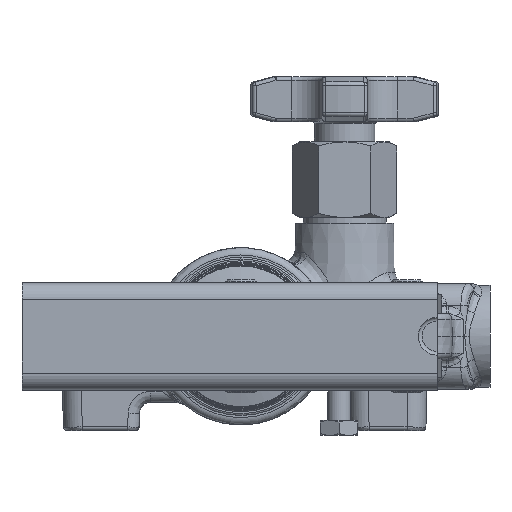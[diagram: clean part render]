
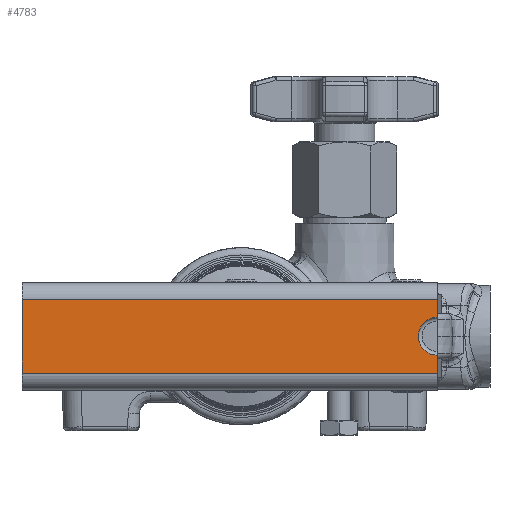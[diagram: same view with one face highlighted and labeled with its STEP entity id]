
A CAD part, left-side view. The second image highlights one B-rep face of the part: STEP entity #4783.
In plain terms, the highlighted planar face has unit normal (-1, 0, 0).
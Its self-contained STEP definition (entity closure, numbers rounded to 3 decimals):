
#4783 = ADVANCED_FACE( 'NONE', ( #10314 ), #10315, .T. );
#10314 = FACE_OUTER_BOUND( '', #29376, .T. );
#10315 = PLANE( '', #29377 );
#29376 = EDGE_LOOP( '', ( #46505, #46506, #46507, #46508, #46509, #46510 ) );
#29377 = AXIS2_PLACEMENT_3D( '', #46511, #46512, #46513 );
#46505 = ORIENTED_EDGE( '', *, *, #53164, .F. );
#46506 = ORIENTED_EDGE( '', *, *, #55610, .T. );
#46507 = ORIENTED_EDGE( '', *, *, #51175, .T. );
#46508 = ORIENTED_EDGE( '', *, *, #51319, .F. );
#46509 = ORIENTED_EDGE( '', *, *, #55611, .F. );
#46510 = ORIENTED_EDGE( '', *, *, #55612, .T. );
#46511 = CARTESIAN_POINT( '', ( -145.867, -52., -9.75 ) );
#46512 = DIRECTION( '', ( -1., 0., 0. ) );
#46513 = DIRECTION( '', ( 0., -1., 0. ) );
#51175 = EDGE_CURVE( 'NONE', #57816, #57814, #57817, .T. );
#51319 = EDGE_CURVE( 'NONE', #58067, #57814, #58069, .T. );
#53164 = EDGE_CURVE( 'NONE', #60999, #60995, #61001, .T. );
#55610 = EDGE_CURVE( 'NONE', #60999, #57816, #64175, .T. );
#55611 = EDGE_CURVE( 'NONE', #64176, #58067, #64177, .T. );
#55612 = EDGE_CURVE( 'NONE', #64176, #60995, #64178, .T. );
#57814 = VERTEX_POINT( 'NONE', #68249 );
#57816 = VERTEX_POINT( 'NONE', #68251 );
#57817 = LINE( '', #68252, #68253 );
#58067 = VERTEX_POINT( 'NONE', #68814 );
#58069 = LINE( '', #68816, #68817 );
#60995 = VERTEX_POINT( 'NONE', #76186 );
#60999 = VERTEX_POINT( 'NONE', #76191 );
#61001 = CIRCLE( '', #76194, 5. );
#64175 = LINE( '', #84651, #84652 );
#64176 = VERTEX_POINT( 'NONE', #84653 );
#64177 = LINE( '', #84654, #84655 );
#64178 = LINE( '', #84656, #84657 );
#68249 = CARTESIAN_POINT( '', ( -145.867, 58., 9.75 ) );
#68251 = CARTESIAN_POINT( '', ( -145.867, -52., 9.75 ) );
#68252 = CARTESIAN_POINT( '', ( -145.867, -52., 9.75 ) );
#68253 = VECTOR( '', #87544, 1000. );
#68814 = CARTESIAN_POINT( '', ( -145.867, 58., -9.75 ) );
#68816 = CARTESIAN_POINT( '', ( -145.867, 58., -9.75 ) );
#68817 = VECTOR( '', #87724, 1000. );
#76186 = CARTESIAN_POINT( '', ( -145.867, -52., -5. ) );
#76191 = CARTESIAN_POINT( '', ( -145.867, -52., 5. ) );
#76194 = AXIS2_PLACEMENT_3D( '', #89880, #89881, #89882 );
#84651 = CARTESIAN_POINT( '', ( -145.867, -52., -9.75 ) );
#84652 = VECTOR( '', #92429, 1000. );
#84653 = CARTESIAN_POINT( '', ( -145.867, -52., -9.75 ) );
#84654 = CARTESIAN_POINT( '', ( -145.867, -52., -9.75 ) );
#84655 = VECTOR( '', #92430, 1000. );
#84656 = CARTESIAN_POINT( '', ( -145.867, -52., -9.75 ) );
#84657 = VECTOR( '', #92431, 1000. );
#87544 = DIRECTION( '', ( 0., 1., 0. ) );
#87724 = DIRECTION( '', ( 0., 0., 1. ) );
#89880 = CARTESIAN_POINT( '', ( -145.867, -52., 0. ) );
#89881 = DIRECTION( '', ( -1., 0., 0. ) );
#89882 = DIRECTION( '', ( 0., -1., 0. ) );
#92429 = DIRECTION( '', ( 0., 0., 1. ) );
#92430 = DIRECTION( '', ( 0., 1., 0. ) );
#92431 = DIRECTION( '', ( 0., 0., 1. ) );
